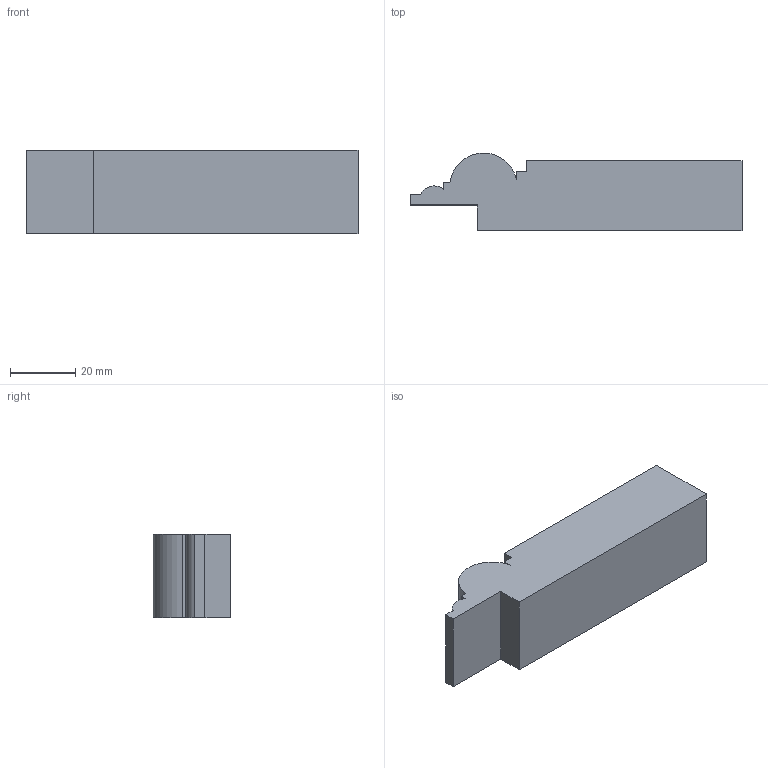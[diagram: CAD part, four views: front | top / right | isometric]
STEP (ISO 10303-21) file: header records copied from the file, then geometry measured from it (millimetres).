
FILE_DESCRIPTION (( 'STEP AP203' ), '1' );
FILE_NAME ('AB705FJ.STEP', '2023-08-25T12:07:55', ( '' ), ( '' ), 'SwSTEP 2.0', 'SolidWorks 2020', '' );
FILE_SCHEMA (( 'CONFIG_CONTROL_DESIGN' ));
Length unit declared in the file: inch
Products named in the file (1): AB705FJ
Bounding box: 101.6 x 23.81 x 25.4 mm (x, y, z)
Volume: 48373.8 mm3; surface area: 10240.2 mm2
Topology: 1 solids, 1 shells, 16 faces, 42 edges, 28 vertices
Faces by surface type: plane 14, cylinder 2
Entity records: 569 total; most frequent: CARTESIAN_POINT 87, ORIENTED_EDGE 84, DIRECTION 80, EDGE_CURVE 42, LINE 38, VECTOR 38, VERTEX_POINT 28, AXIS2_PLACEMENT_3D 21
